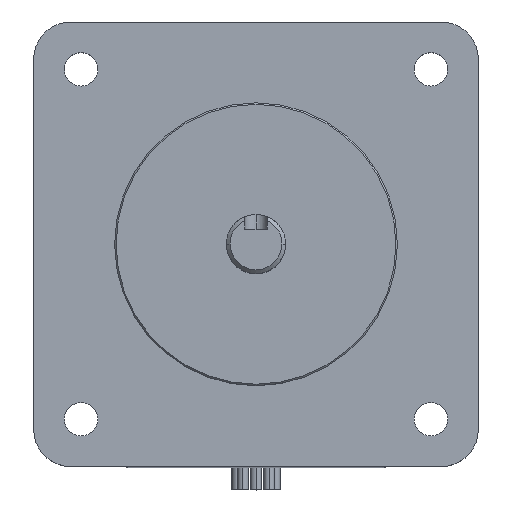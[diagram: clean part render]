
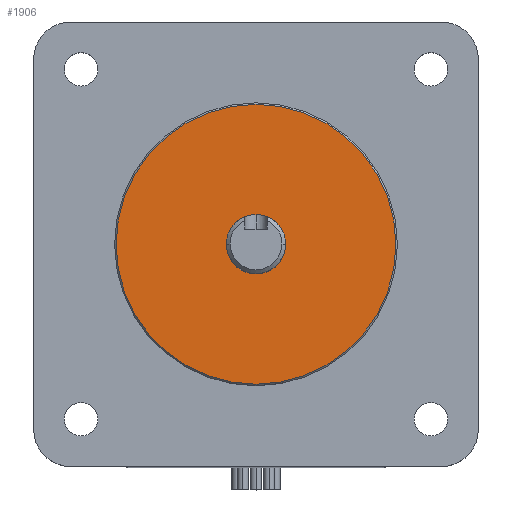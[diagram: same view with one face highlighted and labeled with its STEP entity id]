
A CAD part, top view. The second image highlights one B-rep face of the part: STEP entity #1906.
In plain terms, the highlighted planar face has unit normal (0, 0, 1).
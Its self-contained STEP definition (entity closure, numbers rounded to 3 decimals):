
#107 = AXIS2_PLACEMENT_3D ( 'NONE', #4076, #3756, #3463 ) ;
#151 = FACE_BOUND ( 'NONE', #1003, .T. ) ;
#385 = EDGE_CURVE ( 'NONE', #2643, #3754, #3442, .T. ) ;
#551 = CARTESIAN_POINT ( 'NONE',  ( 0., 0., 11.5 ) ) ;
#709 = CIRCLE ( 'NONE', #3890, 18.85 ) ;
#1000 = FACE_OUTER_BOUND ( 'NONE', #2930, .T. ) ;
#1003 = EDGE_LOOP ( 'NONE', ( #1292, #2958 ) ) ;
#1031 = EDGE_CURVE ( 'NONE', #1355, #3634, #3973, .T. ) ;
#1199 = DIRECTION ( 'NONE',  ( 1., 0., 0. ) ) ;
#1201 = CARTESIAN_POINT ( 'NONE',  ( 4., 0., 11.5 ) ) ;
#1292 = ORIENTED_EDGE ( 'NONE', *, *, #1731, .F. ) ;
#1355 = VERTEX_POINT ( 'NONE', #1201 ) ;
#1607 = DIRECTION ( 'NONE',  ( 1., 0., 0. ) ) ;
#1620 = DIRECTION ( 'NONE',  ( 0., 0., 1. ) ) ;
#1621 = DIRECTION ( 'NONE',  ( 0., 0., 1. ) ) ;
#1731 = EDGE_CURVE ( 'NONE', #3634, #1355, #3810, .T. ) ;
#1906 = ADVANCED_FACE ( 'NONE', ( #1000, #151 ), #2855, .T. ) ;
#2046 = EDGE_CURVE ( 'NONE', #3754, #2643, #709, .T. ) ;
#2238 = DIRECTION ( 'NONE',  ( 1., 0., 0. ) ) ;
#2320 = DIRECTION ( 'NONE',  ( 0., 0., 1. ) ) ;
#2362 = DIRECTION ( 'NONE',  ( 1., 0., 0. ) ) ;
#2553 = CARTESIAN_POINT ( 'NONE',  ( 0., 0., 11.5 ) ) ;
#2576 = ORIENTED_EDGE ( 'NONE', *, *, #385, .T. ) ;
#2636 = ORIENTED_EDGE ( 'NONE', *, *, #2046, .T. ) ;
#2643 = VERTEX_POINT ( 'NONE', #3907 ) ;
#2824 = DIRECTION ( 'NONE',  ( 0., 0., 1. ) ) ;
#2855 = PLANE ( 'NONE',  #3983 ) ;
#2894 = AXIS2_PLACEMENT_3D ( 'NONE', #551, #2824, #1199 ) ;
#2930 = EDGE_LOOP ( 'NONE', ( #2636, #2576 ) ) ;
#2953 = CARTESIAN_POINT ( 'NONE',  ( -18.85, 0., 11.5 ) ) ;
#2958 = ORIENTED_EDGE ( 'NONE', *, *, #1031, .F. ) ;
#3061 = AXIS2_PLACEMENT_3D ( 'NONE', #2553, #1621, #2238 ) ;
#3312 = CARTESIAN_POINT ( 'NONE',  ( 0., 0., 11.5 ) ) ;
#3413 = CARTESIAN_POINT ( 'NONE',  ( -4., 0., 11.5 ) ) ;
#3442 = CIRCLE ( 'NONE', #2894, 18.85 ) ;
#3463 = DIRECTION ( 'NONE',  ( 1., 0., 0. ) ) ;
#3533 = CARTESIAN_POINT ( 'NONE',  ( 0., 0., 11.5 ) ) ;
#3634 = VERTEX_POINT ( 'NONE', #3413 ) ;
#3754 = VERTEX_POINT ( 'NONE', #2953 ) ;
#3756 = DIRECTION ( 'NONE',  ( 0., 0., 1. ) ) ;
#3810 = CIRCLE ( 'NONE', #107, 4. ) ;
#3890 = AXIS2_PLACEMENT_3D ( 'NONE', #3312, #2320, #2362 ) ;
#3907 = CARTESIAN_POINT ( 'NONE',  ( 18.85, 0., 11.5 ) ) ;
#3973 = CIRCLE ( 'NONE', #3061, 4. ) ;
#3983 = AXIS2_PLACEMENT_3D ( 'NONE', #3533, #1620, #1607 ) ;
#4076 = CARTESIAN_POINT ( 'NONE',  ( 0., 0., 11.5 ) ) ;
